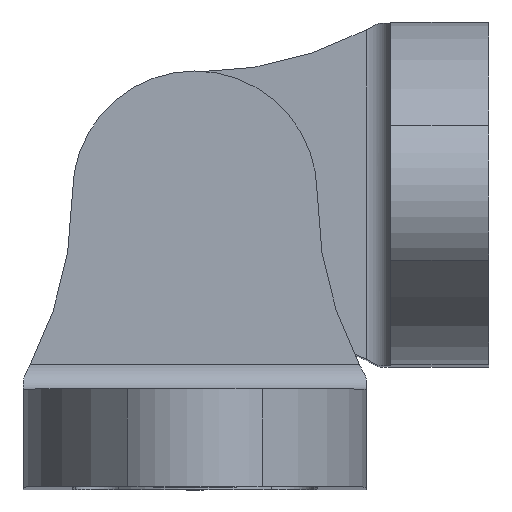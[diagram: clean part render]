
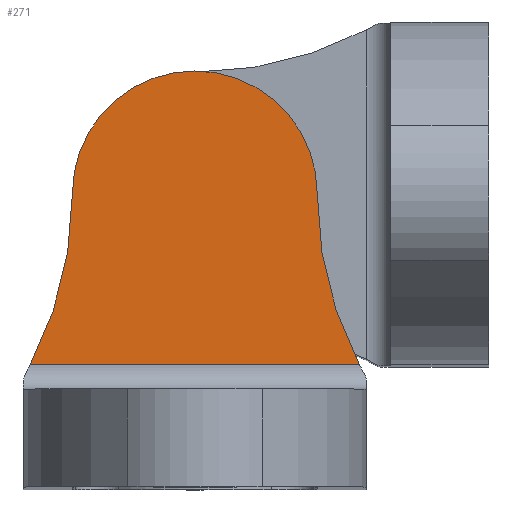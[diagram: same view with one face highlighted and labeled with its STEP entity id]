
A CAD part, top view. The second image highlights one B-rep face of the part: STEP entity #271.
In plain terms, the highlighted planar face has unit normal (0, 0, 1).
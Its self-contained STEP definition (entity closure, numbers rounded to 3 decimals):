
#7 = CARTESIAN_POINT ( 'NONE',  ( -20.062, 0., 68. ) ) ;
#152 = EDGE_CURVE ( 'NONE', #1887, #567, #1691, .T. ) ;
#154 = DIRECTION ( 'NONE',  ( 0., 0., 1. ) ) ;
#237 = ORIENTED_EDGE ( 'NONE', *, *, #2589, .F. ) ;
#264 = DIRECTION ( 'NONE',  ( -1., 0., 0. ) ) ;
#271 = ADVANCED_FACE ( 'NONE', ( #1544 ), #2136, .F. ) ;
#300 = CARTESIAN_POINT ( 'NONE',  ( 5., 0., 68. ) ) ;
#366 = DIRECTION ( 'NONE',  ( -1., 0., 0. ) ) ;
#392 = CIRCLE ( 'NONE', #2703, 15.063 ) ;
#437 = CARTESIAN_POINT ( 'NONE',  ( -6.725, -7., 68. ) ) ;
#457 = AXIS2_PLACEMENT_3D ( 'NONE', #1099, #2719, #1322 ) ;
#567 = VERTEX_POINT ( 'NONE', #629 ) ;
#594 = EDGE_CURVE ( 'NONE', #1887, #1329, #904, .T. ) ;
#629 = CARTESIAN_POINT ( 'NONE',  ( 6.725, -7., 68. ) ) ;
#680 = ORIENTED_EDGE ( 'NONE', *, *, #152, .T. ) ;
#797 = ORIENTED_EDGE ( 'NONE', *, *, #594, .F. ) ;
#904 = CIRCLE ( 'NONE', #2592, 15.062 ) ;
#936 = CARTESIAN_POINT ( 'NONE',  ( 7., -7., 68. ) ) ;
#1019 = AXIS2_PLACEMENT_3D ( 'NONE', #1210, #1681, #264 ) ;
#1099 = CARTESIAN_POINT ( 'NONE',  ( 0., 0., 68. ) ) ;
#1210 = CARTESIAN_POINT ( 'NONE',  ( -73., -8., 68. ) ) ;
#1297 = DIRECTION ( 'NONE',  ( 0., 0., -1. ) ) ;
#1322 = DIRECTION ( 'NONE',  ( -1., 0., 0. ) ) ;
#1329 = VERTEX_POINT ( 'NONE', #2388 ) ;
#1491 = CIRCLE ( 'NONE', #457, 5. ) ;
#1544 = FACE_OUTER_BOUND ( 'NONE', #1852, .T. ) ;
#1681 = DIRECTION ( 'NONE',  ( 0., 0., -1. ) ) ;
#1691 = LINE ( 'NONE', #936, #2859 ) ;
#1852 = EDGE_LOOP ( 'NONE', ( #797, #680, #3012, #237 ) ) ;
#1887 = VERTEX_POINT ( 'NONE', #437 ) ;
#2136 = PLANE ( 'NONE',  #1019 ) ;
#2388 = CARTESIAN_POINT ( 'NONE',  ( -5., 0., 68. ) ) ;
#2461 = VERTEX_POINT ( 'NONE', #300 ) ;
#2529 = EDGE_CURVE ( 'NONE', #567, #2461, #392, .T. ) ;
#2563 = DIRECTION ( 'NONE',  ( 1., 0., 0. ) ) ;
#2589 = EDGE_CURVE ( 'NONE', #1329, #2461, #1491, .T. ) ;
#2592 = AXIS2_PLACEMENT_3D ( 'NONE', #7, #154, #366 ) ;
#2697 = CARTESIAN_POINT ( 'NONE',  ( 20.063, 0., 68. ) ) ;
#2703 = AXIS2_PLACEMENT_3D ( 'NONE', #2697, #1297, #2931 ) ;
#2719 = DIRECTION ( 'NONE',  ( 0., 0., -1. ) ) ;
#2859 = VECTOR ( 'NONE', #2563, 1000. ) ;
#2931 = DIRECTION ( 'NONE',  ( -1., 0., 0. ) ) ;
#3012 = ORIENTED_EDGE ( 'NONE', *, *, #2529, .T. ) ;
